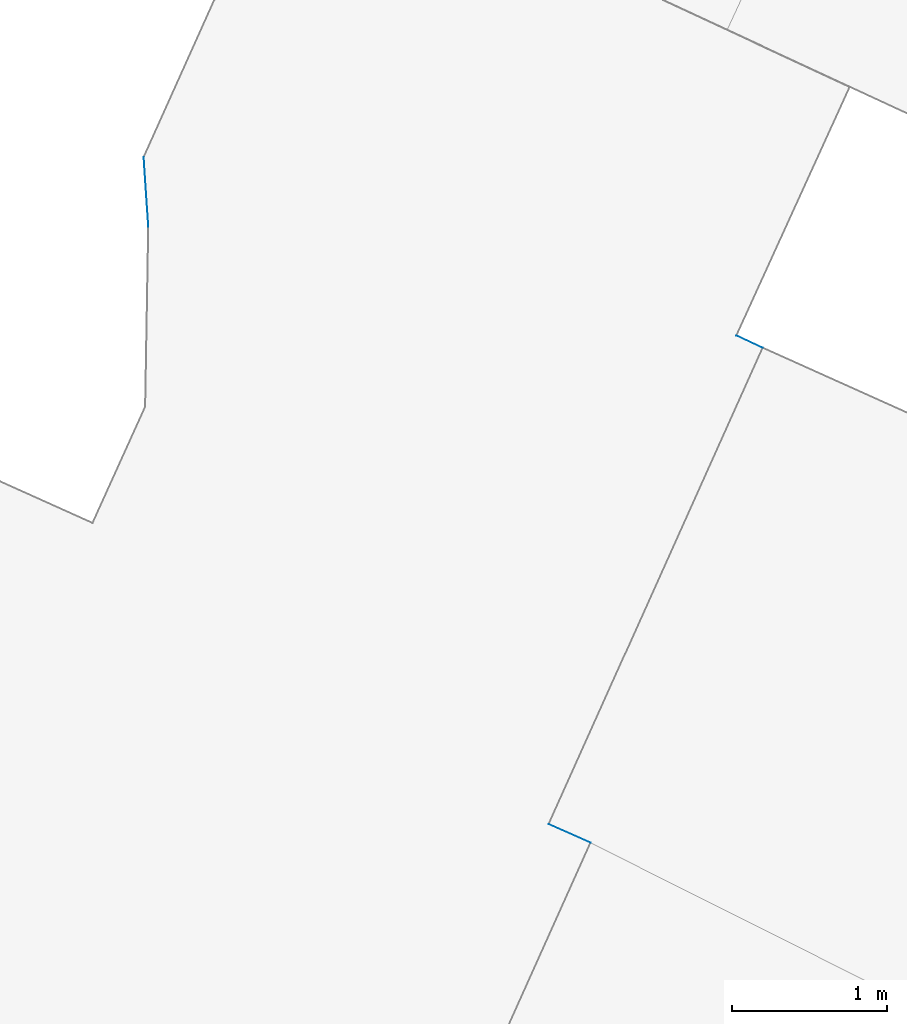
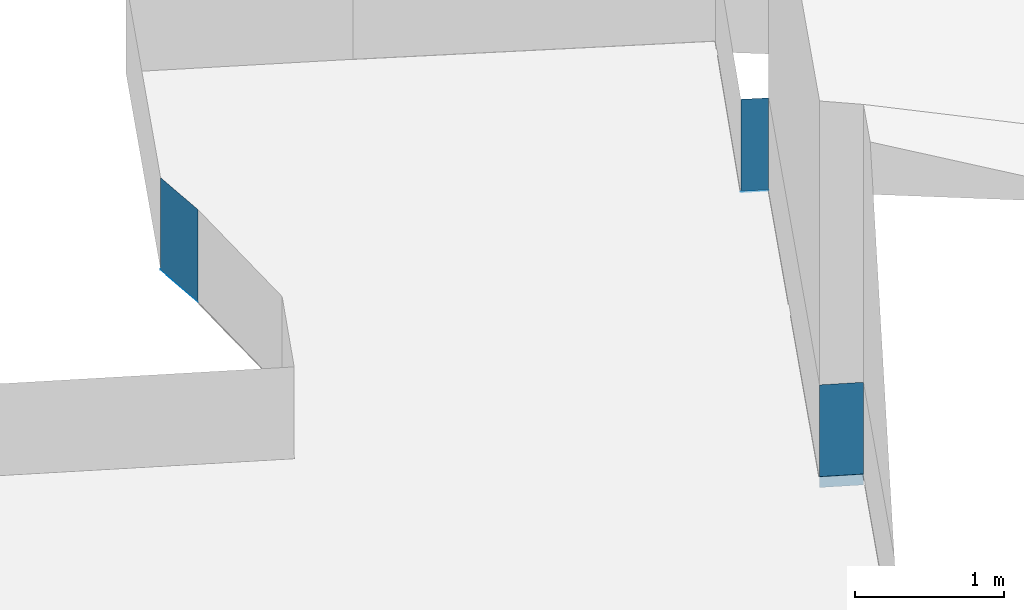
# Not in any storey, part 118 of 136: 8 walls.
"""IFC4 building model written with IfcOpenShell, lengths in metres."""

from ifc_helpers import new_model, entity, si_unit, converted_unit, origin, place, context, subcontext, project, spatial, face_set, surface_model, element, save


model = new_model("IFC4")

# Units and contexts
model_context = context("Model", 3, precision=1e-05, world=origin())
body_context = subcontext(model_context, "Body", "Model", "MODEL_VIEW")
ifc_project = project(units=[converted_unit("PLANEANGLEUNIT", "DEGREE", entity("IfcRatioMeasure", 0.0174532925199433), si_unit("PLANEANGLEUNIT", "RADIAN"), dimensions=[0, 0, 0, 0, 0, 0, 0]), si_unit("AREAUNIT", "SQUARE_METRE"), si_unit("LENGTHUNIT", "METRE")], contexts=[model_context])

# Site, building
site_placement = place(None, origin())
site = spatial("IfcSite", under=ifc_project, at=site_placement, Name="_site")
building_1_placement = place(site_placement, origin())
building_1 = spatial("IfcBuilding", under=site, at=building_1_placement, Name="_building")

# Walls
wall_1_placement = place(building_1_placement, origin())
element("IfcWall", 1, at=wall_1_placement, inside=building_1, Name="Wall", PredefinedType="NOTDEFINED", context=body_context, shape_type="SurfaceModel", body=[
    surface_model("IfcFaceBasedSurfaceModel", [(120.05, 102.49, 43.29), (120.22, 102.41, 43.29), (120.22, 102.41, 44.04), (120.05, 102.49, 44.04)], [face_set([[[0, 1, 2, 3]]])]),
])
wall_2_placement = place(building_1_placement, origin())
element("IfcWall", 2, at=wall_2_placement, inside=building_1, Name="Wall", PredefinedType="NOTDEFINED", context=body_context, shape_type="SurfaceModel", body=[
    surface_model("IfcFaceBasedSurfaceModel", [(116.26, 103.19, 43.29), (116.23, 103.64, 43.29), (116.23, 103.64, 43.286), (116.26, 103.19, 43.284)], [face_set([[[0, 1, 2, 3]]])]),
])
wall_3_placement = place(building_1_placement, origin())
element("IfcWall", 3, at=wall_3_placement, inside=building_1, Name="Wall", PredefinedType="NOTDEFINED", context=body_context, shape_type="SurfaceModel", body=[
    surface_model("IfcFaceBasedSurfaceModel", [(120.05, 102.49, 43.29), (120.22, 102.41, 43.29), (120.22, 102.41, 44.04), (120.05, 102.49, 44.04)], [face_set([[[0, 1, 2, 3]]])]),
])
wall_4_placement = place(building_1_placement, origin())
element("IfcWall", 4, at=wall_4_placement, inside=building_1, Name="Wall", PredefinedType="NOTDEFINED", context=body_context, shape_type="SurfaceModel", body=[
    surface_model("IfcFaceBasedSurfaceModel", [(120.05, 102.49, 43.29), (120.22, 102.41, 43.29), (120.22, 102.41, 43.284), (120.05, 102.49, 43.281)], [face_set([[[0, 1, 2, 3]]])]),
])
wall_5_placement = place(building_1_placement, origin())
element("IfcWall", 5, at=wall_5_placement, inside=building_1, Name="Wall", PredefinedType="NOTDEFINED", context=body_context, shape_type="SurfaceModel", body=[
    surface_model("IfcFaceBasedSurfaceModel", [(116.26, 103.19, 43.29), (116.23, 103.64, 43.29), (116.23, 103.64, 44.04), (116.26, 103.19, 44.04)], [face_set([[[0, 1, 2, 3]]])]),
])

# Building
building_2_placement = place(site_placement, origin())
building_2 = spatial("IfcBuilding", under=site, at=building_2_placement, Name="_building")

# Walls
wall_6_placement = place(building_2_placement, origin())
element("IfcWall", 6, at=wall_6_placement, inside=building_2, Name="Wall", PredefinedType="NOTDEFINED", context=body_context, shape_type="SurfaceModel", body=[
    surface_model("IfcFaceBasedSurfaceModel", [(118.84, 99.34, 43.29), (119.11, 99.22, 43.29), (119.11, 99.22, 44.04), (118.84, 99.34, 44.04)], [face_set([[[0, 1, 2, 3]]])]),
])
wall_7_placement = place(building_2_placement, origin())
element("IfcWall", 7, at=wall_7_placement, inside=building_2, Name="Wall", PredefinedType="NOTDEFINED", context=body_context, shape_type="SurfaceModel", body=[
    surface_model("IfcFaceBasedSurfaceModel", [(118.84, 99.34, 43.29), (119.11, 99.22, 43.29), (119.11, 99.22, 43.201), (118.84, 99.34, 43.201)], [face_set([[[0, 1, 2, 3]]])]),
])
wall_8_placement = place(building_2_placement, origin())
element("IfcWall", 8, at=wall_8_placement, inside=building_2, Name="Wall", PredefinedType="NOTDEFINED", context=body_context, shape_type="SurfaceModel", body=[
    surface_model("IfcFaceBasedSurfaceModel", [(118.84, 99.34, 43.29), (119.11, 99.22, 43.29), (119.11, 99.22, 44.04), (118.84, 99.34, 44.04)], [face_set([[[0, 1, 2, 3]]])]),
])

save(model, "model.ifc")
